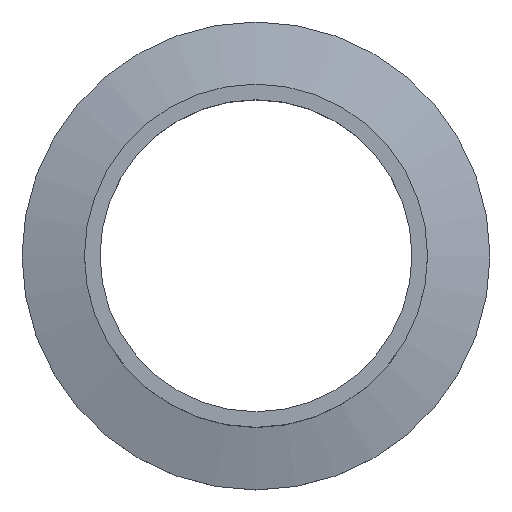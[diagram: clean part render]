
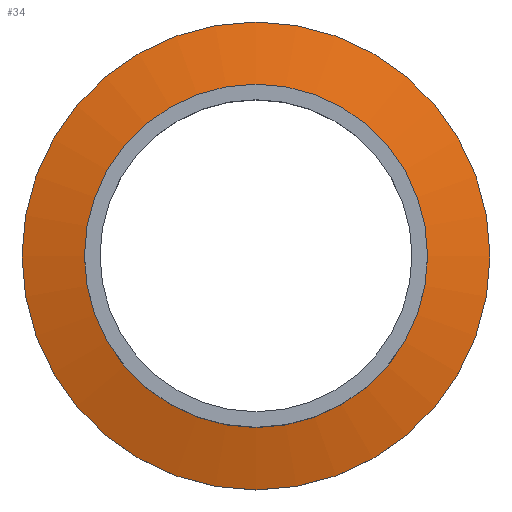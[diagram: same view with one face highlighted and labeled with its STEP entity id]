
A CAD part, top view. The second image highlights one B-rep face of the part: STEP entity #34.
In plain terms, the highlighted conical face has half-angle 75 degrees and reference radius 37.5 mm.
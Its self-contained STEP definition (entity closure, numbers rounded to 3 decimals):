
#34 = ADVANCED_FACE( '', ( #69, #70 ), #71, .T. );
#69 = FACE_BOUND( '', #108, .T. );
#70 = FACE_OUTER_BOUND( '', #109, .T. );
#71 = CONICAL_SURFACE( '', #110, 37.5, 1.309 );
#108 = EDGE_LOOP( '', ( #143 ) );
#109 = EDGE_LOOP( '', ( #144 ) );
#110 = AXIS2_PLACEMENT_3D( '', #145, #146, #147 );
#143 = ORIENTED_EDGE( '', *, *, #186, .F. );
#144 = ORIENTED_EDGE( '', *, *, #188, .T. );
#145 = CARTESIAN_POINT( '', ( 0., 0., 3. ) );
#146 = DIRECTION( '', ( 0., 0., -1. ) );
#147 = DIRECTION( '', ( -1., 0., 0. ) );
#186 = EDGE_CURVE( '', #203, #203, #204, .T. );
#188 = EDGE_CURVE( '', #206, #206, #207, .T. );
#203 = VERTEX_POINT( '', #227 );
#204 = CIRCLE( '', #228, 27.5 );
#206 = VERTEX_POINT( '', #230 );
#207 = CIRCLE( '', #231, 37.5 );
#227 = CARTESIAN_POINT( '', ( 27.5, 0., 5.679 ) );
#228 = AXIS2_PLACEMENT_3D( '', #251, #252, #253 );
#230 = CARTESIAN_POINT( '', ( 37.5, 0., 3. ) );
#231 = AXIS2_PLACEMENT_3D( '', #254, #255, #256 );
#251 = CARTESIAN_POINT( '', ( 0., 0., 5.679 ) );
#252 = DIRECTION( '', ( 0., 0., 1. ) );
#253 = DIRECTION( '', ( 1., 0., 0. ) );
#254 = CARTESIAN_POINT( '', ( 0., 0., 3. ) );
#255 = DIRECTION( '', ( 0., 0., 1. ) );
#256 = DIRECTION( '', ( 1., 0., 0. ) );
